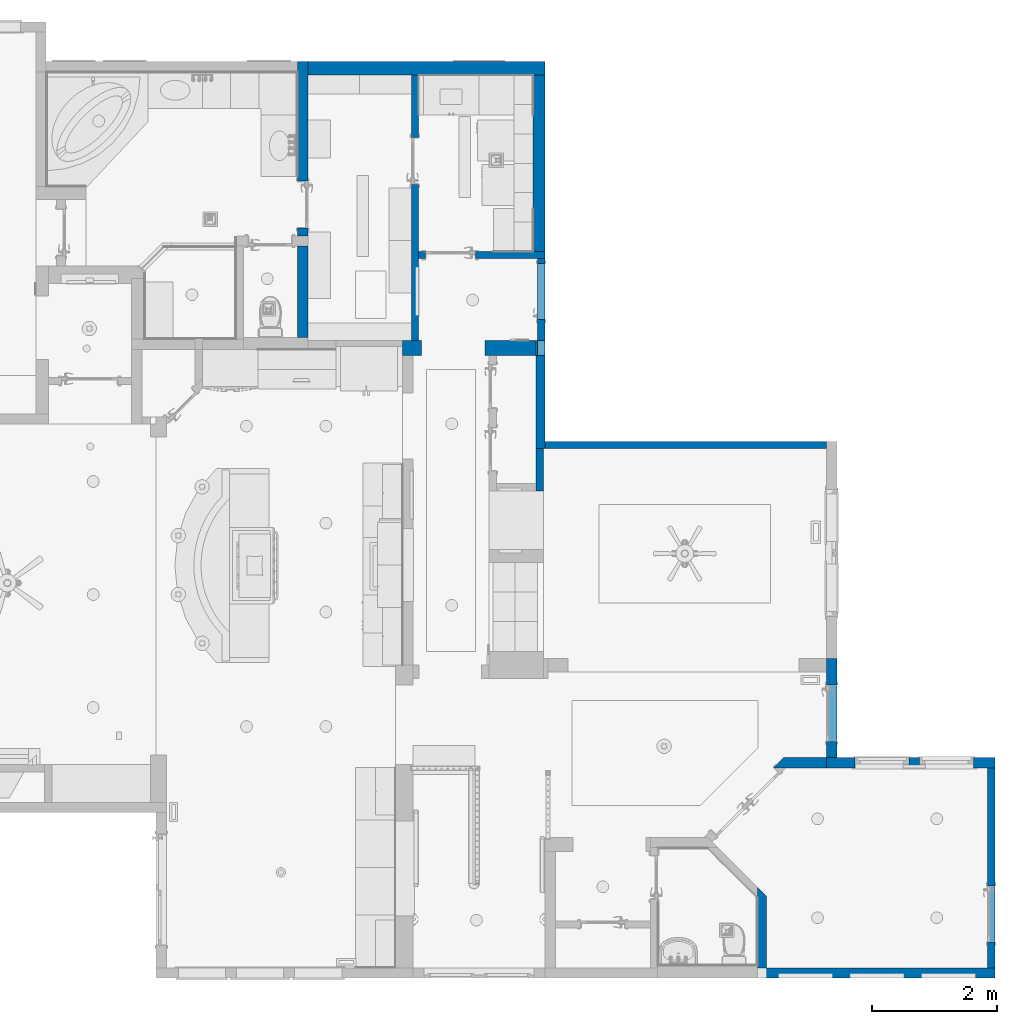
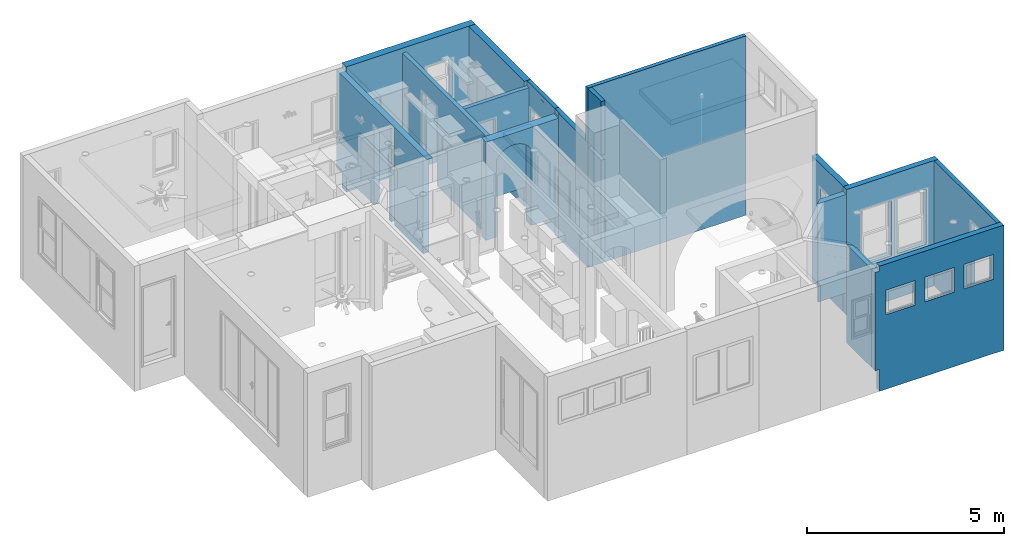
# One storey, part 9 of 77: 16 walls.
"""IFC2X3 building model written with IfcOpenShell, lengths in inches."""

import ifcopenshell
import ifcopenshell.guid

model = None  # the IFC model being written
_history = None  # IfcOwnerHistory: only IFC2X3 demands one
_inside = {}  # id of a spatial element -> (the spatial element, [elements in it])
_under = {}  # id of a project, library or spatial element -> (it, [spatial elements below it])
_declared = {}  # id of a project -> (the project, [libraries it declares])
_typed = {}  # id of a type object -> (the type object, [elements of that type])
_made_of = {}  # id of a material, layer set ... -> (it, [elements and type objects made of it])


def new_model(schema):
    """Start an empty IFC model of exactly this schema.

    Asked for "IFC4X3", IfcOpenShell would pick the latest addendum, in which some entities
    have other attributes; the version numbers below select the first issue.
    IFC2X3 requires an IfcOwnerHistory on every rooted entity: one is made here for all.
    """
    global model, _history
    if schema == "IFC4X3":
        model = ifcopenshell.file(schema_version=(4, 3, 0, 0))
    else:
        model = ifcopenshell.file(schema=schema)
    _inside.clear()
    _under.clear()
    _declared.clear()
    _typed.clear()
    _made_of.clear()
    _history = None
    if model.schema == "IFC2X3":
        org = make("IfcOrganization", Name="unknown")
        user = make(
            "IfcPersonAndOrganization",
            ThePerson=make("IfcPerson", FamilyName="unknown"),
            TheOrganization=org,
        )
        app = make(
            "IfcApplication",
            ApplicationDeveloper=org,
            Version="unknown",
            ApplicationFullName="unknown",
            ApplicationIdentifier="unknown",
        )
        _history = make(
            "IfcOwnerHistory",
            OwningUser=user,
            OwningApplication=app,
            ChangeAction="ADDED",
            CreationDate=0,
        )
    return model


def make(cls, **values):
    """One entity of the class cls with the attributes given. An attribute that is None is left unset."""
    return model.create_entity(
        cls, **{name: value for name, value in values.items() if value is not None}
    )


def entity(cls, *values):
    """Any entity or typed value of the class cls, its attributes in the order of the schema. None: left unset."""
    e = model.create_entity(cls)
    for i, value in enumerate(values):
        if value is not None:
            e[i] = value
    return e


def rooted(cls, **values):
    """An entity with a GlobalId (a new one), such as an element, a storey or a relation."""
    return make(cls, GlobalId=ifcopenshell.guid.new(), OwnerHistory=_history, **values)


def si_unit(unit_type, name, prefix=None):
    """IfcSIUnit, for example si_unit("LENGTHUNIT", "METRE", prefix="MILLI")."""
    return make("IfcSIUnit", UnitType=unit_type, Prefix=prefix, Name=name)


def converted_unit(unit_type, name, factor, base, dimensions=None, offset=None):
    """IfcConversionBasedUnit, such as the inch: factor (a typed value) times the base unit."""
    return make(
        "IfcConversionBasedUnit"
        if offset is None
        else "IfcConversionBasedUnitWithOffset",
        ConversionOffset=offset,
        Dimensions=None
        if dimensions is None
        else entity("IfcDimensionalExponents", *dimensions),
        UnitType=unit_type,
        Name=name,
        ConversionFactor=make(
            "IfcMeasureWithUnit", ValueComponent=factor, UnitComponent=base
        ),
    )


def derived_unit(unit_type, elements):
    """IfcDerivedUnit: a product of units, each with its exponent."""
    return make(
        "IfcDerivedUnit",
        Elements=[
            make("IfcDerivedUnitElement", Unit=unit, Exponent=power)
            for unit, power in elements
        ],
        UnitType=unit_type,
    )


def money_unit(currency):
    """IfcMonetaryUnit."""
    return make("IfcMonetaryUnit", Currency=currency)


def assignment(units):
    """IfcUnitAssignment: the units of a project."""
    return None if units is None else make("IfcUnitAssignment", Units=units)


def point(xyz):
    """IfcCartesianPoint."""
    return None if xyz is None else make("IfcCartesianPoint", Coordinates=xyz)


def direction(xyz):
    """IfcDirection."""
    return None if xyz is None else make("IfcDirection", DirectionRatios=xyz)


def frame(location, z_axis=None, x_axis=None):
    """IfcAxis2Placement3D, a coordinate frame: its origin and axes. An axis left out is left unset."""
    return make(
        "IfcAxis2Placement3D",
        Location=point(location),
        Axis=direction(z_axis),
        RefDirection=direction(x_axis),
    )


def origin_with_axes():
    """The frame at (0, 0, 0) with the z axis (0, 0, 1) and the x axis (1, 0, 0) written out."""
    return frame((0.0, 0.0, 0.0), z_axis=(0.0, 0.0, 1.0), x_axis=(1.0, 0.0, 0.0))


def place(relative_to, where):
    """IfcLocalPlacement: puts the frame where relative to a parent placement (None: the world)."""
    return make(
        "IfcLocalPlacement", PlacementRelTo=relative_to, RelativePlacement=where
    )


def context(
    kind, dimensions, precision=None, world=None, true_north=None, identifier=None
):
    """IfcGeometricRepresentationContext, for example the 3D "Model" context."""
    return make(
        "IfcGeometricRepresentationContext",
        ContextIdentifier=identifier,
        ContextType=kind,
        CoordinateSpaceDimension=dimensions,
        Precision=precision,
        WorldCoordinateSystem=world,
        TrueNorth=true_north,
    )


def subcontext(parent, identifier, kind, view, scale=None):
    """IfcGeometricRepresentationSubContext, for example "Body" below "Model"."""
    return make(
        "IfcGeometricRepresentationSubContext",
        ContextIdentifier=identifier,
        ContextType=kind,
        ParentContext=parent,
        TargetScale=scale,
        TargetView=view,
    )


def project(units=None, contexts=None):
    """IfcProject with its units and contexts."""
    return rooted(
        "IfcProject",
        Name="project",
        RepresentationContexts=contexts,
        UnitsInContext=assignment(units),
    )


def spatial(cls, under=None, at=None, **own):
    """A site, building, storey or space (cls), placed at a placement, below another one or the project."""
    s = rooted(cls, ObjectPlacement=at, **own)
    if under is not None:
        _under.setdefault(under.id(), (under, []))[1].append(s)
    return s


def faces_of(points, faces, orient=None, outer=None):
    """IfcFace entities. A face is a list of loops; a loop is a list of indices into points, from 0.

    orient and outer hold one flag for each loop. By default every Orientation is true, the
    first loop of a face is its IfcFaceOuterBound and the others are IfcFaceBound.
    """
    made = []
    for i, loops in enumerate(faces):
        bounds = []
        for j, loop in enumerate(loops):
            is_outer = j == 0 if outer is None else outer[i][j]
            bounds.append(
                make(
                    "IfcFaceOuterBound" if is_outer else "IfcFaceBound",
                    Bound=make("IfcPolyLoop", Polygon=[points[k] for k in loop]),
                    Orientation=True if orient is None else orient[i][j],
                )
            )
        made.append(make("IfcFace", Bounds=bounds))
    return made


def faceted_brep(points, faces, orient=None, outer=None, voids=None):
    """IfcFacetedBrep: a solid bounded by flat faces; with voids (closed shells), ...WithVoids."""
    shared = [point(p) for p in points]
    hull = make("IfcClosedShell", CfsFaces=faces_of(shared, faces, orient, outer))
    if voids is None:
        return make("IfcFacetedBrep", Outer=hull)
    return make(
        "IfcFacetedBrepWithVoids",
        Outer=hull,
        Voids=[
            make(cls, CfsFaces=faces_of(shared, fs, o, b)) for cls, fs, o, b in voids
        ],
    )


def shape(context_of_items, identifier, shape_type, items):
    """IfcShapeRepresentation: the items that make up one representation, for example the "Body"."""
    return make(
        "IfcShapeRepresentation",
        ContextOfItems=context_of_items,
        RepresentationIdentifier=identifier,
        RepresentationType=shape_type,
        Items=items,
    )


def material(Name=None, Category=None):
    """IfcMaterial."""
    return make("IfcMaterial", Name=Name, Category=Category)


def made_of(thing, what):
    """Note that an element or type object is made of a material, layer set ...; save() writes the relation."""
    if what is not None:
        _made_of.setdefault(what.id(), (what, []))[1].append(thing)
    return thing


def type_object(cls, material=None, **own):
    """A type object (cls), such as IfcWallType, which elements share."""
    return made_of(rooted(cls, **own), material)


def element(
    cls,
    number,
    at=None,
    inside=None,
    cuts=None,
    type_object=None,
    material=None,
    context=None,
    identifier="Body",
    shape_type=None,
    held_by="IfcProductDefinitionShape",
    body=None,
    shapes=None,
    **own,
):
    """One element of the class cls, such as IfcWall. Its Tag is "e" and its number.

    at: its placement. inside: the storey or other place that contains it. cuts: it is an
    opening in that element (IfcRelVoidsElement). A single representation is given by context,
    identifier, shape_type and body (its items); several are given by shapes. held_by: the class
    of the entity that holds the representations. save() writes the other relations.
    """
    e = rooted(cls, Tag="e%d" % number, ObjectPlacement=at, **own)
    if body is not None:
        shapes = [shape(context, identifier, shape_type, body)]
    if shapes is not None:
        e.Representation = make(held_by, Representations=shapes)
    if inside is not None:
        _inside.setdefault(inside.id(), (inside, []))[1].append(e)
    if cuts is not None:
        rooted(
            "IfcRelVoidsElement", RelatingBuildingElement=cuts, RelatedOpeningElement=e
        )
    if type_object is not None:
        _typed.setdefault(type_object.id(), (type_object, []))[1].append(e)
    return made_of(e, material)


def aggregate(whole, parts):
    """IfcRelAggregates: a whole, such as a stair, and the parts it consists of."""
    return rooted("IfcRelAggregates", RelatingObject=whole, RelatedObjects=parts)


def save(model, path):
    """Write the relations noted so far, then the file.

    IfcRelAggregates (storeys below a building ...), IfcRelContainedInSpatialStructure (elements
    in a storey), IfcRelDefinesByType, IfcRelAssociatesMaterial and IfcRelDeclares: one each for
    every whole, place, type object, material and project.
    """
    for whole, parts in _under.values():
        aggregate(whole, parts)
    for where, things in _inside.values():
        rooted(
            "IfcRelContainedInSpatialStructure",
            RelatedElements=things,
            RelatingStructure=where,
        )
    for kind, things in _typed.values():
        rooted("IfcRelDefinesByType", RelatedObjects=things, RelatingType=kind)
    for what, things in _made_of.values():
        rooted("IfcRelAssociatesMaterial", RelatedObjects=things, RelatingMaterial=what)
    for by, libraries in _declared.values():
        rooted("IfcRelDeclares", RelatingContext=by, RelatedDefinitions=libraries)
    model.write(path)


model = new_model("IFC2X3")

# Units and contexts
model_context = context("Model", 3, precision=0.000393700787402, world=origin_with_axes(), true_north=direction((0.0, 1.0)))
body_context = subcontext(model_context, "Body", "Model", "MODEL_VIEW")
ifc_project = project(units=[converted_unit("LENGTHUNIT", "INCH", entity("IfcPositiveLengthMeasure", 0.0254), si_unit("LENGTHUNIT", "METRE"), dimensions=[1, 0, 0, 0, 0, 0, 0]), converted_unit("AREAUNIT", "SQUARE_FOOT", entity("IfcPositiveLengthMeasure", 0.09290304), si_unit("AREAUNIT", "SQUARE_METRE"), dimensions=[2, 0, 0, 0, 0, 0, 0]), si_unit("PLANEANGLEUNIT", "RADIAN"), si_unit("SOLIDANGLEUNIT", "STERADIAN"), money_unit("USD"), converted_unit("TIMEUNIT", "Year", entity("IfcTimeMeasure", 31556926.0), si_unit("TIMEUNIT", "SECOND"), dimensions=[0, 0, 1, 0, 0, 0, 0]), si_unit("MASSUNIT", "GRAM", prefix="KILO"), si_unit("THERMODYNAMICTEMPERATUREUNIT", "DEGREE_CELSIUS"), si_unit("LUMINOUSINTENSITYUNIT", "LUMEN"), si_unit("ENERGYUNIT", "JOULE", prefix="MEGA"), derived_unit("THERMALCONDUCTANCEUNIT", [(si_unit("POWERUNIT", "WATT"), 1), (si_unit("LENGTHUNIT", "METRE"), -1), (si_unit("THERMODYNAMICTEMPERATUREUNIT", "KELVIN"), -1)]), derived_unit("SPECIFICHEATCAPACITYUNIT", [(si_unit("ENERGYUNIT", "JOULE"), 1), (si_unit("MASSUNIT", "GRAM", prefix="KILO"), -1), (si_unit("THERMODYNAMICTEMPERATUREUNIT", "KELVIN"), -1)]), derived_unit("MASSDENSITYUNIT", [(si_unit("MASSUNIT", "GRAM", prefix="KILO"), 1), (si_unit("VOLUMEUNIT", "CUBIC_METRE"), -1)])], contexts=[model_context])

# Site, building, storey
site_placement = place(None, origin_with_axes())
site = spatial("IfcSite", under=ifc_project, at=site_placement, Name="Site", CompositionType="ELEMENT")
building_placement = place(site_placement, origin_with_axes())
building = spatial("IfcBuilding", under=site, at=building_placement, Name="Building", CompositionType="ELEMENT")
storey_placement = place(building_placement, frame((0.0, 0.0, 127.952755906), z_axis=(0.0, 0.0, 1.0), x_axis=(1.0, 0.0, 0.0)))
storey = spatial("IfcBuildingStorey", under=building, at=storey_placement, Name="Second Floor", CompositionType="ELEMENT", Elevation=127.953)

# Walls
ifc_material = material(Name="Generic - Structural")
wall_type_1 = type_object("IfcWallType", Name="Generic - Structural 115", PredefinedType="NOTDEFINED")
wall_1_placement = place(storey_placement, frame((726.999746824, 470.00831258, 0.0), z_axis=(0.0, 0.0, 1.0), x_axis=(-1.0, 0.0, 0.0)))
element("IfcWall", 1, at=wall_1_placement, inside=storey, type_object=wall_type_1, material=ifc_material, Name="SW - 131", context=body_context, shape_type="Brep", body=[
    faceted_brep([(75.198381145, 0.0, 96.4566929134), (75.198381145, 0.0, 0.0157480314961), (79.5192100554, 0.0, 0.0157480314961), (79.5192100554, 0.0, 120.078740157), (0.0, 0.0, 120.078740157), (0.0, 0.0, 0.0), (7.55204539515, 0.0, 0.0), (7.55204539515, 0.0, 0.0157480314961), (43.7023181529, 0.0, 0.0157480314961), (43.7023181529, 0.0, 96.4566929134), (75.198381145, 4.52755905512, 96.4566929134), (75.198381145, 4.52755905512, 0.0157480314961), (79.5195814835, 4.52755905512, 0.0157480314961), (79.5195814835, 4.52755905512, 120.078740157), (0.0, 4.52755905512, 120.078740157), (0.0, 4.52755905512, 0.0), (4.55204623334, 4.52755905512, 0.0), (4.55204623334, 0.100688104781, 0.0), (7.55204539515, 0.100688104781, 0.0), (7.55204539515, 0.100688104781, 0.0157480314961), (43.7023181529, 4.52755905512, 0.0157480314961), (4.55204623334, 0.100688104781, 0.0157480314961), (4.55204623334, 4.52755905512, 0.0157480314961), (7.55204539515, 4.52755905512, 0.0157480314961), (43.7023181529, 4.52755905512, 96.4566929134)], [[[0, 1, 2, 3, 4, 5, 6, 7, 8, 9]], [[1, 0, 10, 11]], [[1, 11, 12, 2]], [[2, 12, 13, 3]], [[3, 13, 14, 4]], [[5, 4, 14, 15]], [[5, 15, 16, 17, 18, 6]], [[7, 6, 18, 19]], [[20, 8, 7, 19, 21, 22, 23]], [[9, 8, 20, 24]], [[0, 9, 24, 10]], [[24, 20, 23, 22, 16, 15, 14, 13, 12, 11, 10]], [[22, 21, 17, 16]], [[18, 17, 21, 19]]]),
])
wall_2_placement = place(storey_placement, frame((721.497022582, 345.971990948, -26.968503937), z_axis=(0.0, 0.0, 1.0), x_axis=(0.999999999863, -1.65757655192e-05, 0.0)))
element("IfcWall", 2, at=wall_2_placement, inside=storey, type_object=wall_type_1, material=ifc_material, Name="W-12", context=body_context, shape_type="Brep", body=[
    faceted_brep([(182.726743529, 4.52755905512, 219.094488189), (182.726743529, 4.52755905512, 0.0), (5.50010650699, 4.52755905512, 0.0), (5.50010650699, 4.52755905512, 152.952755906), (0.000106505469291, 4.52755905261, 152.952755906), (0.0, 4.52755905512, 219.094488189), (182.726637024, 0.0, 0.0), (182.726637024, 0.0, 219.094488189), (5.50000000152, 0.0, 0.0), (5.50000000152, 0.0, 152.952755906), (0.0, 0.0, 152.952755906), (0.0, 0.0, 219.094488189)], [[[0, 1, 2, 3, 4, 5]], [[6, 1, 0, 7]], [[2, 1, 6, 8]], [[2, 8, 9, 3]], [[3, 9, 10, 4]], [[10, 11, 5, 4]], [[7, 0, 5, 11]], [[7, 11, 10, 9, 8, 6]]]),
])
wall_3_placement = place(storey_placement, frame((722.472187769, 470.008312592, -26.968503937), z_axis=(0.0, 0.0, 1.0), x_axis=(-2.83681185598e-09, -1.0, 0.0)))
element("IfcWall", 3, at=wall_3_placement, inside=storey, type_object=wall_type_1, material=ifc_material, Name="SW - 130", context=body_context, shape_type="Brep", body=[
    faceted_brep([(0.0, 0.0, 0.0), (56.1042624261, 1.59157236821e-07, 0.0), (56.1042624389, 1.59157236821e-07, 26.968503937), (56.1042624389, 1.59157236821e-07, 147.047244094), (56.1042624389, 1.59157236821e-07, 147.062992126), (1.28438292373e-08, 0.0, 147.062992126), (1.28438292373e-08, 0.0, 147.047244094), (4.52755906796, 1.28438991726e-08, 147.047244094), (4.52755906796, 1.28438991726e-08, 26.968503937), (1.28438292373e-08, 0.0, 26.968503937), (42.9080080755, 1.21721985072e-07, 26.968503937), (7.47493720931, 2.12050849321e-08, 26.968503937), (7.47493720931, 2.12050849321e-08, 123.42519685), (42.9080080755, 1.21721985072e-07, 123.42519685), (-1.28438292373e-08, 4.52755905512, 0.0), (56.1042624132, 4.52755921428, 0.0), (56.1042624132, 4.52755921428, 152.952755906), (56.104262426, 0.0174555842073, 152.952755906), (56.1042624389, 0.0174555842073, 147.062992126), (1.27943150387e-08, 0.0174554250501, 147.062992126), (1.27943150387e-08, 0.0174554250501, 152.952755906), (-1.28438292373e-08, 4.52755905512, 152.952755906), (0.0, 4.52755905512, 147.047244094), (4.52755905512, 4.52755906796, 147.047244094), (4.52755905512, 4.52755906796, 26.968503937), (0.0, 4.52755905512, 26.968503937), (42.9080080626, 4.52755917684, 26.968503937), (7.47493719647, 4.52755907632, 26.968503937), (7.47493719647, 4.52755907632, 123.42519685), (42.9080080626, 4.52755917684, 123.42519685)], [[[0, 1, 2, 3, 4, 5, 6, 7, 8, 9], [10, 11, 12, 13]], [[0, 14, 15, 1]], [[1, 15, 16, 17, 18, 4, 3, 2]], [[19, 5, 4, 18]], [[20, 21, 22, 6, 5, 19]], [[7, 6, 22, 23]], [[7, 23, 24, 8]], [[8, 24, 25, 9]], [[0, 9, 25, 14]], [[26, 27, 11, 10]], [[27, 28, 12, 11]], [[28, 29, 13, 12]], [[29, 26, 10, 13]], [[21, 16, 15, 14, 25, 24, 23, 22], [26, 29, 28, 27]], [[20, 17, 16, 21]], [[17, 20, 19, 18]]]),
])
wall_4_placement = place(storey_placement, frame((726.025904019, 319.406813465, 0.0), z_axis=(0.0, 0.0, 1.0), x_axis=(5.26893967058e-05, 0.999999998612, 0.0)))
element("IfcWall", 4, at=wall_4_placement, inside=storey, type_object=wall_type_1, material=ifc_material, Name="SW - 106", context=body_context, shape_type="Brep", body=[
    faceted_brep([(26.5649389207, 4.52755905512, 0.0), (26.5648675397, 4.52755905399, 120.094488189), (26.5649388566, 0.0, 120.094488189), (26.5651024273, 0.0, 0.0), (0.0, 4.52755905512, 94.094488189), (-0.000191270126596, 4.52755904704, 120.094488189), (26.5005356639, 4.52755905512, 0.0), (26.500572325, 4.52755905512, 0.0157480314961), (-0.000190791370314, 4.52755905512, 0.0157480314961), (0.0, 0.0, 120.094488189), (0.0, 0.0, 94.094488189), (0.0, 0.0, 0.0157480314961), (26.5008108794, 0.0, 0.0157480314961), (26.500775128, 0.0, 0.0)], [[[0, 1, 2, 3]], [[4, 5, 1, 0, 6, 7, 8]], [[5, 9, 2, 1]], [[3, 2, 9, 10, 11, 12, 13]], [[0, 3, 13, 6]], [[10, 9, 5, 4, 8, 11]], [[7, 6, 13, 12]], [[8, 7, 12, 11]]]),
    faceted_brep([(0.0, 4.52755905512, 191.929133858), (0.000357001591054, 0.0362606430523, 191.929133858), (0.0, 0.0, 191.929133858), (26.5651024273, 0.0, 191.929133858), (26.5649389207, 4.52755905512, 191.929133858), (-0.000191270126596, 4.52755904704, 126.0), (-1.53185726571e-06, 0.0362606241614, 191.401116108), (-1.53185726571e-06, 0.0362606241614, 186.023622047), (0.0, 0.0, 186.023622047), (0.0, 0.0, 126.0), (26.5649388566, 0.0, 126.0), (26.5648675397, 4.52755905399, 126.0)], [[[0, 1, 2, 3, 4]], [[5, 6, 1, 0]], [[7, 8, 2, 1]], [[3, 2, 8, 9, 10]], [[4, 3, 10, 11]], [[0, 4, 11, 5]], [[8, 7, 6, 5, 9]], [[7, 1, 6]], [[9, 5, 11, 10]]]),
])
wall_5_placement = place(storey_placement, frame((647.475934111, 413.903763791, 0.0), z_axis=(0.0, 0.0, 1.0), x_axis=(8.20371615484e-05, 0.999999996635, 0.0)))
element("IfcWall", 5, at=wall_5_placement, inside=storey, type_object=wall_type_1, material=ifc_material, Name="SW - 132", context=body_context, shape_type="Brep", body=[
    faceted_brep([(98.4290810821, 1.38471911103e-08, 0.0157480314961), (98.4290810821, 0.0, 96.4566929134), (127.956640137, 0.0, 96.4566929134), (127.956640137, 1.8000369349e-08, 0.0157480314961), (167.003865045, 2.34923891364e-08, 0.0157480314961), (167.003850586, 0.0, 0.0), (167.110662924, 0.0, 0.0), (167.110662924, 0.0, 120.094488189), (0.0, 0.0, 120.094488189), (0.000286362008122, 2.34923891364e-08, 120.078740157), (0.00028636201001, 0.0, 0.0157480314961), (98.4290810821, 4.52755905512, 0.0157480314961), (98.4290810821, 4.52755905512, 96.4566929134), (127.956640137, 4.52755905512, 96.4566929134), (127.956640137, 4.52755905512, 0.0157480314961), (167.003493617, 4.52755905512, 0.0157480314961), (167.003478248, 4.52755905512, 0.0), (167.110291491, 4.52755905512, 0.0), (167.110291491, 4.52755905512, 120.094488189), (0.0, 4.52755905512, 120.094488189), (-8.50660842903e-05, 4.52755904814, 120.078740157), (-8.50660848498e-05, 4.52755905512, 0.0157480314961)], [[[0, 1, 2, 3, 4, 5, 6, 7, 8, 9, 10]], [[1, 0, 11, 12]], [[2, 1, 12, 13]], [[3, 2, 13, 14]], [[3, 14, 15, 4]], [[5, 4, 15, 16]], [[5, 16, 17, 6]], [[7, 6, 17, 18]], [[19, 8, 7, 18]], [[9, 8, 19, 20, 21, 10]], [[11, 0, 10, 21]], [[12, 11, 21, 20, 19, 18, 17, 16, 15, 14, 13]]]),
])
wall_6_placement = place(storey_placement, frame((1005.59027146, 145.178134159, -26.968503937), z_axis=(0.0, 0.0, 1.0), x_axis=(0.0, -1.0, 0.0)))
element("IfcWall", 6, at=wall_6_placement, inside=storey, type_object=wall_type_1, material=ifc_material, Name="SW - 075", context=body_context, shape_type="Brep", body=[
    faceted_brep([(125.77096185, 0.0, 0.0), (125.77096185, 0.0, 152.952755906), (0.0, 0.0, 152.952755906), (0.0, 0.0, 0.0), (109.629733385, 0.0, 26.968503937), (74.1966625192, 0.0, 26.968503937), (74.1966625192, 0.0, 123.42519685), (109.629733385, 0.0, 123.42519685), (125.77096185, 4.52755905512, 0.0), (125.77096185, 4.52755905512, 152.952755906), (-0.000934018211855, 4.52755905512, 152.952755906), (-0.000934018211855, 4.52755905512, 0.0), (109.629733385, 4.52755905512, 26.968503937), (74.1966625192, 4.52755905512, 26.968503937), (74.1966625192, 4.52755905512, 123.42519685), (109.629733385, 4.52755905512, 123.42519685)], [[[0, 1, 2, 3], [4, 5, 6, 7]], [[8, 9, 1, 0]], [[1, 9, 10, 2]], [[2, 10, 11, 3]], [[8, 0, 3, 11]], [[12, 13, 5, 4]], [[13, 14, 6, 5]], [[14, 15, 7, 6]], [[15, 12, 4, 7]], [[9, 8, 11, 10], [12, 15, 14, 13]]]),
])
wall_type_2 = type_object("IfcWallType", Name="Generic - Structural 140", PredefinedType="NOTDEFINED")
wall_7_placement = place(storey_placement, frame((866.408419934, 19.4071723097, 0.0), z_axis=(0.0, 0.0, 1.0), x_axis=(0.0, 1.0, 0.0)))
element("IfcWall", 7, at=wall_7_placement, inside=storey, type_object=wall_type_2, material=ifc_material, Name="SW - 077", context=body_context, shape_type="Brep", body=[
    faceted_brep([(0.0, 0.0, 0.0), (0.00053203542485, 0.0, 0.0), (0.000456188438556, 0.0, 0.0157480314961), (45.0906224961, 0.0, 0.0157480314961), (45.0906224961, 0.0, 120.094488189), (0.0, 0.0, 120.094488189), (0.0, 5.5, 0.0), (0.000530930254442, 5.5, 0.0), (0.000456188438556, 5.5, 0.0157480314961), (50.600824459, 5.5, 0.0157480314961), (50.600824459, 5.5, 120.094488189), (0.0, 5.5, 120.094488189)], [[[0, 1, 2, 3, 4, 5]], [[6, 7, 1, 0]], [[8, 2, 1, 7]], [[8, 9, 3, 2]], [[4, 3, 9, 10]], [[4, 10, 11, 5]], [[11, 6, 0, 5]], [[9, 8, 7, 6, 11, 10]]]),
])
wall_8_placement = place(storey_placement, frame((721.497022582, 345.971990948, -26.968503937), z_axis=(0.0, 0.0, 1.0), x_axis=(4.00995822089e-05, 0.999999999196, 0.0)))
element("IfcWall", 8, at=wall_8_placement, inside=storey, type_object=wall_type_2, material=ifc_material, Name="SW - 106", context=body_context, shape_type="Brep", body=[
    faceted_brep([(67.9320592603, -8.8437393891e-09, 147.047244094), (67.9320598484, -8.8202411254e-09, 147.062992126), (67.9320989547, -0.989896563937, 147.062992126), (67.932279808, -0.989896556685, 152.952755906), (67.932279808, -5.5, 152.952755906), (67.932279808, -5.500000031, 147.047244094), (58.4832403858, -0.000378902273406, 152.952755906), (58.4832403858, -0.000378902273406, 147.062992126), (58.483240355, 0.0, 147.047244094), (58.483240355, 0.0, 26.9842519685), (58.4671981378, 0.0, 26.9842519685), (58.4671981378, 0.0, 0.0157480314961), (67.9322796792, 0.0, 0.0157480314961), (67.932279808, 0.0, 0.0), (0.0, 0.0, 0.0), (0.0, 0.0, 152.952755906), (58.4832800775, -0.990275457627, 147.062992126), (58.4832800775, -0.990275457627, 152.952755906), (0.000129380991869, -5.5, 152.952755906), (0.000129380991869, -5.5, 0.0), (67.932279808, -5.5, 0.0), (67.932279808, -5.500000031, 26.968503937), (58.4834609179, -5.50037892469, 26.968503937), (58.4834609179, -5.50037892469, 147.047244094), (58.4832783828, -0.948332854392, 26.968503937), (58.4832783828, -0.948332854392, 26.9842519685), (58.4672361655, -0.948333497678, 26.9842519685), (58.4672361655, -0.948333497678, 0.0157480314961), (67.9320972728, -0.947953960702, 0.0157480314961), (67.9320972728, -0.947953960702, 26.968503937)], [[[0, 1, 2, 3, 4, 5]], [[6, 7, 1, 0, 8, 9, 10, 11, 12, 13, 14, 15]], [[16, 2, 1, 7]], [[16, 17, 3, 2]], [[3, 17, 6, 15, 18, 4]], [[4, 18, 19, 20, 21, 22, 23, 5]], [[8, 0, 5, 23]], [[7, 6, 17, 16]], [[22, 24, 25, 9, 8, 23]], [[26, 10, 9, 25]], [[26, 27, 11, 10]], [[11, 27, 28, 12]], [[20, 13, 12, 28, 29, 21]], [[14, 13, 20, 19]], [[18, 15, 14, 19]], [[22, 21, 29, 24]], [[26, 25, 24, 29, 28, 27]]]),
])
wall_type_3 = type_object("IfcWallType", Name="Generic - Structural 215", PredefinedType="NOTDEFINED")
wall_9_placement = place(storey_placement, frame((577.98831937, 581.014426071, -26.968503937), z_axis=(0.0, 0.0, 1.0), x_axis=(1.0, 1.18114733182e-09, 0.0)))
element("IfcWall", 9, at=wall_9_placement, inside=storey, type_object=wall_type_3, material=ifc_material, Name="SW - 129", context=body_context, shape_type="Brep", body=[
    faceted_brep([(149.011427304, -1.76004442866e-07, 152.952755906), (0.0, 0.0, 152.952755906), (0.0, 0.0, 152.559055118), (0.0013301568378, 0.0, 152.559055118), (0.0013301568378, 0.0, 146.653543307), (0.0, 0.0, 146.653543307), (0.0, 0.0, 26.968503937), (0.0, 0.0, 0.0), (149.011427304, -1.76004442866e-07, 0.0), (92.9319193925, -1.09766264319e-07, 74.4094488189), (92.9319193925, -1.09766264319e-07, 119.881889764), (122.262628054, -1.44410118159e-07, 119.881889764), (122.262628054, -1.44410118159e-07, 74.4094488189), (149.011427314, 8.46456675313, 152.952755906), (9.99788178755e-09, 8.46456692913, 152.952755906), (2.23555207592e-09, 1.89274623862, 146.653543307), (2.23555207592e-09, 1.89274623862, 152.559055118), (-6.49198077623e-05, 8.46456692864, 146.653543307), (-6.49198077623e-05, 8.46456692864, 26.968503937), (9.99788178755e-09, 8.46456692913, 0.0), (0.00133018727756, 1.89274623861, 152.559055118), (0.00133018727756, 1.89274623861, 146.653543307), (149.011427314, 8.46456675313, 0.0), (92.9319194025, 8.46456681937, 74.4094488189), (92.9319194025, 8.46456681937, 119.881889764), (122.262628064, 8.46456678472, 119.881889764), (122.262628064, 8.46456678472, 74.4094488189)], [[[0, 1, 2, 3, 4, 5, 6, 7, 8], [9, 10, 11, 12]], [[0, 13, 14, 1]], [[7, 6, 5, 15, 16, 2, 1, 14, 17, 18, 19]], [[3, 2, 16, 20]], [[4, 3, 20, 21]], [[5, 4, 21, 15]], [[22, 8, 7, 19]], [[0, 8, 22, 13]], [[23, 24, 10, 9]], [[24, 25, 11, 10]], [[25, 26, 12, 11]], [[26, 23, 9, 12]], [[17, 14, 13, 22, 19, 18], [23, 26, 25, 24]], [[16, 15, 21, 20]]]),
])
wall_type_4 = type_object("IfcWallType", Name="Generic Wall 6.5\" 165", PredefinedType="NOTDEFINED")
wall_10_placement = place(storey_placement, frame((904.218373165, 214.136779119, -26.968503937), z_axis=(0.0, 0.0, 1.0), x_axis=(0.000216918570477, -0.999999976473, 0.0)))
element("IfcWall", 10, at=wall_10_placement, inside=storey, type_object=wall_type_4, material=ifc_material, Name="SW - 093", context=body_context, shape_type="Brep", body=[
    faceted_brep([(62.4795561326, 0.0, 0.0), (62.4795561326, 0.0, 152.952755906), (0.0, 0.0, 152.952755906), (0.0, 0.0, 0.0), (16.8024045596, 0.0, 26.968503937), (16.8024045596, 0.0, 123.42519685), (52.2354754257, 0.0, 123.42519685), (52.2354754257, 0.0, 26.968503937), (62.4796251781, 6.5, 0.0), (62.4796251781, 6.5, 152.952755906), (0.000835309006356, 6.5, 152.952755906), (0.000835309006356, 6.5, 0.0), (16.8024045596, 6.5, 26.968503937), (16.8024045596, 6.5, 123.42519685), (52.2354754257, 6.5, 123.42519685), (52.2354754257, 6.5, 26.968503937)], [[[0, 1, 2, 3], [4, 5, 6, 7]], [[0, 8, 9, 1]], [[1, 9, 10, 2]], [[11, 3, 2, 10]], [[8, 0, 3, 11]], [[12, 13, 5, 4]], [[13, 14, 6, 5]], [[14, 15, 7, 6]], [[15, 12, 4, 7]], [[9, 8, 11, 10], [12, 15, 14, 13]]]),
])
wall_11_placement = place(storey_placement, frame((904.232603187, 145.157224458, -26.968503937), z_axis=(0.0, 0.0, 1.0), x_axis=(0.999999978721, 0.000206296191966, 0.0)))
element("IfcWall", 11, at=wall_11_placement, inside=storey, type_object=wall_type_4, material=ifc_material, Name="SW - 080", context=body_context, shape_type="Brep", body=[
    faceted_brep([(0.000663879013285, 6.5, 26.968503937), (0.000663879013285, 6.5, 147.047244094), (0.0, 6.5, 147.047244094), (0.0, 6.5, 152.952755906), (105.886570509, 6.5, 152.952755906), (105.886570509, 6.5, 0.0), (0.0, 6.5, 0.0), (0.0, 6.5, 26.968503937), (92.5029968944, 6.5, 54.1338582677), (92.5029968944, 6.5, 121.653543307), (58.4478787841, 6.5, 121.653543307), (58.4478787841, 6.5, 54.1338582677), (17.8916929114, 6.5, 54.1338582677), (51.9468110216, 6.5, 54.1338582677), (51.9468110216, 6.5, 121.653543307), (17.8916929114, 6.5, 121.653543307), (0.0, 0.0, 147.047244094), (0.0, 0.0, 26.968503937), (0.0, 0.0, 152.952755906), (105.885229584, 0.0, 152.952755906), (105.885229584, 0.0, 0.0), (0.0, 0.0, 0.0), (92.5029968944, 0.0, 121.653543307), (92.5029968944, 0.0, 54.1338582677), (58.4478787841, 0.0, 121.653543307), (58.4478787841, 0.0, 54.1338582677), (17.8916929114, 0.0, 54.1338582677), (51.9468110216, 0.0, 54.1338582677), (51.9468110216, 0.0, 121.653543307), (17.8916929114, 0.0, 121.653543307)], [[[0, 1, 2, 3, 4, 5, 6, 7], [8, 9, 10, 11], [12, 13, 14, 15]], [[16, 1, 0, 17]], [[16, 2, 1]], [[3, 2, 16, 18]], [[3, 18, 19, 4]], [[19, 20, 5, 4]], [[21, 6, 5, 20]], [[21, 17, 7, 6]], [[7, 17, 0]], [[22, 9, 8, 23]], [[24, 10, 9, 22]], [[25, 11, 10, 24]], [[23, 8, 11, 25]], [[26, 27, 13, 12]], [[27, 28, 14, 13]], [[28, 29, 15, 14]], [[29, 26, 12, 15]], [[20, 19, 18, 16, 17, 21], [24, 22, 23, 25], [26, 29, 28, 27]]]),
])
wall_12_placement = place(storey_placement, frame((577.989643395, 408.408081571, 0.0), z_axis=(0.0, 0.0, 1.0), x_axis=(-7.67077703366e-06, 0.999999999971, 0.0)))
element("IfcWall", 12, at=wall_12_placement, inside=storey, type_object=wall_type_4, material=ifc_material, Name="SW - 134", context=body_context, shape_type="Brep", body=[
    faceted_brep([(76.355972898, 0.0, 0.0157480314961), (76.355972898, 0.0, 96.4566929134), (105.871703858, 0.0, 96.4566929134), (105.871703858, 0.0, 0.0157480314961), (172.499546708, 0.0, 0.0157480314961), (172.499518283, 0.0, 0.0), (181.073846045, 0.0, 0.0), (181.073846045, 0.0, 119.68503937), (2.47440982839e-07, 0.0, 119.68503937), (1.0612962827e-08, 0.0, 119.5), (7.48031497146, 0.0, 119.5), (7.48031497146, 0.0, 0.0157480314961), (64.9394298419, 0.0, 0.0157480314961), (64.9394298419, 0.0, 119.5), (71.4394298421, 0.0, 119.5), (71.4394298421, 0.0, 0.0157480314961), (76.355972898, 6.5, 0.0157480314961), (76.355972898, 6.5, 96.4566929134), (105.871703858, 6.5, 96.4566929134), (105.871703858, 6.5, 0.0157480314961), (172.499596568, 6.5, 0.0157480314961), (174.49959601, 6.5, 0.0157480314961), (174.499546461, 0.0406044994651, 0.0157480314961), (172.49954702, 0.040619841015, 0.0157480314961), (172.49954702, 0.040619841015, 0.0), (181.073895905, 6.5, 0.0), (174.499546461, 0.0406044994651, 0.0), (174.499594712, 6.49999999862, 0.0), (181.073895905, 6.5, 119.68503937), (5.01074916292e-05, 6.5, 119.68503937), (4.98706636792e-05, 6.5, 119.5), (7.48036483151, 6.5, 119.5), (7.48036483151, 6.5, 0.0157480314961), (64.9394797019, 6.5, 0.0157480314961), (64.9394797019, 6.5, 119.5), (71.4394797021, 6.5, 119.5), (71.4394797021, 6.5, 0.0157480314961)], [[[0, 1, 2, 3, 4, 5, 6, 7, 8, 9, 10, 11, 12, 13, 14, 15]], [[1, 0, 16, 17]], [[2, 1, 17, 18]], [[3, 2, 18, 19]], [[3, 19, 20, 21, 22, 23, 4]], [[5, 4, 23, 24]], [[25, 6, 5, 24, 26, 27]], [[6, 25, 28, 7]], [[7, 28, 29, 8]], [[29, 30, 9, 8]], [[31, 10, 9, 30]], [[32, 11, 10, 31]], [[12, 11, 32, 33]], [[12, 33, 34, 13]], [[35, 14, 13, 34]], [[36, 15, 14, 35]], [[16, 0, 15, 36]], [[17, 16, 36, 35, 34, 33, 32, 31, 30, 29, 28, 25, 27, 21, 20, 19, 18]], [[26, 22, 21, 27]], [[26, 24, 23, 22]]]),
])
wall_13_placement = place(storey_placement, frame((1005.59027146, 19.4071723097, -26.968503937), z_axis=(0.0, 0.0, 1.0), x_axis=(-1.0, 0.0, 0.0)))
element("IfcWall", 13, at=wall_13_placement, inside=storey, type_object=wall_type_4, material=ifc_material, Name="SW - 076", context=body_context, shape_type="Brep", body=[
    faceted_brep([(95.600628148, 3.73965461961, 123.42519685), (95.600628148, 3.73965461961, 88.3858267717), (133.600628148, 3.73965461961, 88.3858267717), (133.600628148, 3.73965461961, 123.42519685), (97.600628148, 3.73965461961, 91.1417322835), (97.5730690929, 3.73965461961, 91.1417322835), (97.5730690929, 3.73965461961, 121.062992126), (131.628187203, 3.73965461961, 121.062992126), (131.628187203, 3.73965461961, 91.1417322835), (131.600628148, 3.73965461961, 91.1417322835), (131.600628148, 3.73965461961, 91.0), (97.600628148, 3.73965461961, 91.0), (95.600628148, 0.0, 123.42519685), (95.600628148, 0.0, 88.3858267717), (133.600628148, 0.0, 88.3858267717), (133.600628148, 0.0, 123.42519685), (97.600628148, 6.5, 91.1417322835), (97.5730690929, 6.5, 91.1417322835), (97.5730690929, 6.5, 121.062992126), (131.628187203, 6.5, 121.062992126), (131.628187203, 6.5, 91.1417322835), (131.600628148, 6.5, 91.1417322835), (131.600628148, 6.5, 91.0), (97.600628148, 6.5, 91.0), (139.181851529, 0.0, 0.0), (139.181851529, 0.0, 26.968503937), (144.681851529, 0.0, 26.968503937), (144.681851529, 0.0, 147.062992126), (139.181851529, 0.0, 147.062992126), (139.181851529, 0.0, 152.952755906), (-4.52755905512, 0.0, 152.952755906), (-4.52755905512, 0.0, 0.0), (5.60062797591, 0.0, 123.42519685), (43.6006279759, 0.0, 123.42519685), (43.6006279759, 0.0, 88.3858267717), (5.60062797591, 0.0, 88.3858267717), (50.6006280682, 0.0, 123.42519685), (88.6006280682, 0.0, 123.42519685), (88.6006280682, 0.0, 88.3858267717), (50.6006280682, 0.0, 88.3858267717), (-4.52755905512, 6.5, 0.0), (-4.52755905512, 6.5, 152.952755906), (139.181851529, 6.5, 152.952755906), (139.181851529, 6.5, 147.062992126), (144.681851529, 6.5, 147.062992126), (144.681851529, 6.5, 26.968503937), (139.181851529, 6.5, 26.968503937), (139.181851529, 6.5, 0.0), (7.60062797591, 6.5, 91.0), (41.6006279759, 6.5, 91.0), (41.6006279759, 6.5, 91.1417322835), (41.628187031, 6.5, 91.1417322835), (41.628187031, 6.5, 121.062992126), (7.5730689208, 6.5, 121.062992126), (7.5730689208, 6.5, 91.1417322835), (7.60062797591, 6.5, 91.1417322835), (86.6281871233, 6.5, 91.1417322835), (86.6281871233, 6.5, 121.062992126), (52.5730690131, 6.5, 121.062992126), (52.5730690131, 6.5, 91.1417322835), (52.6006280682, 6.5, 91.1417322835), (52.6006280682, 6.5, 91.0), (86.6006280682, 6.5, 91.0), (86.6006280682, 6.5, 91.1417322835), (5.60062797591, 3.73965461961, 123.42519685), (43.6006279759, 3.73965461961, 123.42519685), (43.6006279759, 3.73965461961, 88.3858267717), (5.60062797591, 3.73965461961, 88.3858267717), (50.6006280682, 3.73965461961, 123.42519685), (88.6006280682, 3.73965461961, 123.42519685), (88.6006280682, 3.73965461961, 88.3858267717), (50.6006280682, 3.73965461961, 88.3858267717), (7.60062797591, 3.73965461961, 91.0), (41.6006279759, 3.73965461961, 91.0), (41.6006279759, 3.73965461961, 91.1417322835), (41.628187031, 3.73965461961, 91.1417322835), (41.628187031, 3.73965461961, 121.062992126), (7.5730689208, 3.73965461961, 121.062992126), (7.5730689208, 3.73965461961, 91.1417322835), (7.60062797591, 3.73965461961, 91.1417322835), (86.6281871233, 3.73965461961, 121.062992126), (86.6281871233, 3.73965461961, 91.1417322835), (52.5730690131, 3.73965461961, 121.062992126), (52.5730690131, 3.73965461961, 91.1417322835), (52.6006280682, 3.73965461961, 91.1417322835), (52.6006280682, 3.73965461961, 91.0), (86.6006280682, 3.73965461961, 91.0), (86.6006280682, 3.73965461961, 91.1417322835)], [[[0, 1, 2, 3], [4, 5, 6, 7, 8, 9, 10, 11]], [[1, 0, 12, 13]], [[2, 1, 13, 14]], [[3, 2, 14, 15]], [[0, 3, 15, 12]], [[5, 4, 16, 17]], [[6, 5, 17, 18]], [[7, 6, 18, 19]], [[8, 7, 19, 20]], [[21, 9, 8, 20]], [[9, 21, 22, 10]], [[22, 23, 11, 10]], [[16, 4, 11, 23]], [[24, 25, 26, 27, 28, 29, 30, 31], [12, 15, 14, 13], [32, 33, 34, 35], [36, 37, 38, 39]], [[40, 41, 42, 43, 44, 45, 46, 47], [48, 49, 50, 51, 52, 53, 54, 55], [56, 57, 58, 59, 60, 61, 62, 63], [17, 16, 23, 22, 21, 20, 19, 18]], [[24, 47, 46, 25]], [[25, 46, 45, 26]], [[27, 26, 45, 44]], [[27, 44, 43, 28]], [[29, 28, 43, 42]], [[42, 41, 30, 29]], [[41, 40, 31, 30]], [[24, 31, 40, 47]], [[64, 65, 33, 32]], [[65, 66, 34, 33]], [[66, 67, 35, 34]], [[67, 64, 32, 35]], [[68, 69, 37, 36]], [[69, 70, 38, 37]], [[70, 71, 39, 38]], [[71, 68, 36, 39]], [[49, 48, 72, 73]], [[49, 73, 74, 50]], [[75, 51, 50, 74]], [[52, 51, 75, 76]], [[53, 52, 76, 77]], [[54, 53, 77, 78]], [[55, 54, 78, 79]], [[72, 48, 55, 79]], [[80, 57, 56, 81]], [[82, 58, 57, 80]], [[83, 59, 58, 82]], [[84, 60, 59, 83]], [[84, 85, 61, 60]], [[62, 61, 85, 86]], [[63, 62, 86, 87]], [[87, 81, 56, 63]], [[64, 67, 66, 65], [77, 76, 75, 74, 73, 72, 79, 78]], [[68, 71, 70, 69], [87, 86, 85, 84, 83, 82, 80, 81]]]),
])
wall_type_5 = type_object("IfcWallType", Name="Generic - Structural 190", PredefinedType="NOTDEFINED")
wall_14_placement = place(storey_placement, frame((719.519431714, 581.014426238, -26.968503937), z_axis=(0.0, 0.0, 1.0), x_axis=(1.18114860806e-09, -1.0, 0.0)))
element("IfcWall", 14, at=wall_14_placement, inside=storey, type_object=wall_type_5, material=ifc_material, Name="SW - 130", context=body_context, shape_type="Brep", body=[
    faceted_brep([(111.006113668, 7.48031482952, 152.952755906), (111.006113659, -1.31114716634e-07, 152.952755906), (111.006113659, -1.31114716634e-07, 147.047244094), (111.006113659, -1.31114716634e-07, 26.968503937), (111.006113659, -1.31114716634e-07, 0.0), (111.006113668, 7.48031482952, 0.0), (0.0, 7.48031496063, 152.952755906), (0.0, 0.0, 152.952755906), (0.0, 0.0, 0.0), (30.1072545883, -3.5561125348e-08, 67.094488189), (30.1072545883, -3.5561125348e-08, 73.0), (38.17812073, -4.50940072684e-08, 73.0), (38.17812073, -4.50940072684e-08, 67.094488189), (0.0, 7.48031496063, 0.0), (30.1072545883, 3.75, 67.094488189), (30.1072545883, 3.75, 73.0), (38.17812073, 3.75, 73.0), (38.17812073, 3.75, 67.094488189)], [[[0, 1, 2, 3, 4, 5]], [[1, 0, 6, 7]], [[8, 4, 3, 2, 1, 7], [9, 10, 11, 12]], [[5, 4, 8, 13]], [[6, 0, 5, 13]], [[6, 13, 8, 7]], [[9, 14, 15, 10]], [[10, 15, 16, 11]], [[11, 16, 17, 12]], [[12, 17, 14, 9]], [[16, 15, 14, 17]]]),
])
wall_type_6 = type_object("IfcWallType", Name="Generic - Structural 170", PredefinedType="NOTDEFINED")
wall_15_placement = place(storey_placement, frame((878.489643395, 145.15717231, 0.0), z_axis=(0.0, 0.0, 1.0), x_axis=(0.999999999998, 2.02572855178e-06, 0.0)))
element("IfcWall", 15, at=wall_15_placement, inside=storey, type_object=wall_type_6, material=ifc_material, Name="SW - 080", context=body_context, shape_type="Brep", body=[
    faceted_brep([(-7.13788105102, 1.44594094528e-05, 96.4566929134), (-7.13788105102, 1.44594094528e-05, 0.0157480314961), (25.7429597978, -5.21482486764e-05, 0.0157480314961), (25.7429597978, -5.21482486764e-05, 120.078740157), (-7.77817459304, 1.57564703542e-05, 120.078740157), (-7.77817459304, 1.57564704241e-05, 96.4566929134), (-7.4580271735, 0.320161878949, 96.4566929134), (-7.4580271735, 0.320161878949, 0.0157480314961), (-1.0852476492, 6.69291558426, 0.0157480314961), (25.4580722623, 6.6928618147, 0.0157480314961), (25.4580587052, 0.000401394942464, 0.0157480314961), (25.7429597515, 0.000400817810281, 0.0157480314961), (25.7429597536, 0.000380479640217, 0.0), (25.7422762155, 6.69286123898, 0.0), (25.7422762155, 6.69286123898, 120.078740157), (-1.0852476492, 6.69291558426, 120.078740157), (25.4580722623, 6.6928618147, 0.0), (25.4580587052, 0.000401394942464, 0.0)], [[[0, 1, 2, 3, 4, 5]], [[1, 0, 6, 7]], [[1, 7, 8, 9, 10, 11, 2]], [[3, 2, 11, 12, 13, 14]], [[14, 15, 4, 3]], [[6, 5, 4, 15, 8, 7]], [[0, 5, 6]], [[13, 16, 9, 8, 15, 14]], [[17, 10, 9, 16]], [[12, 11, 10, 17]], [[13, 12, 17, 16]]]),
])
wall_type_7 = type_object("IfcWallType", Name="Generic - Structural 240", PredefinedType="NOTDEFINED")
wall_16_placement = place(storey_placement, frame((726.999746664, 413.904050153, 0.0), z_axis=(0.0, 0.0, 1.0), x_axis=(-1.0, 2.84070169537e-09, 0.0)))
element("IfcWall", 16, at=wall_16_placement, inside=storey, type_object=wall_type_7, material=ifc_material, Name="SW - 108", context=body_context, shape_type="Brep", body=[
    faceted_brep([(77.5577084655, 2.20318251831e-07, 93.905511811), (77.5577084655, 2.20318251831e-07, 0.0157480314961), (89.5173249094, 2.54291985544e-07, 0.0157480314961), (89.5173249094, 2.54291985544e-07, 120.078740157), (0.0, 0.0, 120.078740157), (0.0, 0.0, 0.0), (4.55204607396, 1.29309686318e-08, 0.0), (4.55204607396, 1.29309686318e-08, 0.0157480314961), (37.5970785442, 1.06802056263e-07, 0.0157480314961), (37.5970785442, 1.06802056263e-07, 93.905511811), (39.8276620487, 1.13138474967e-07, 97.315828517), (42.633596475, 1.21109281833e-07, 100.270908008), (45.9239285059, 1.30456135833e-07, 102.674962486), (49.5920032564, 1.40876077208e-07, 104.450065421), (53.518921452, 1.52031248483e-07, 105.538677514), (57.5773935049, 1.63560154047e-07, 105.905511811), (61.6358655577, 1.75089059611e-07, 105.538677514), (65.5627837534, 1.86244300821e-07, 104.450065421), (69.2308585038, 1.96664172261e-07, 102.674962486), (72.5211905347, 2.06011026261e-07, 100.270908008), (75.3271249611, 2.13981833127e-07, 97.315828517), (77.5577084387, 9.44881911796, 93.905511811), (77.5577084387, 9.44881911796, 0.0157480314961), (89.5181103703, 9.44881915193, 0.0157480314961), (89.5181103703, 9.44881915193, 120.078740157), (-2.68413113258e-08, 9.44881889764, 120.078740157), (-2.68413113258e-08, 9.44881889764, 0.0), (4.55204604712, 9.44881891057, 0.0), (4.55204604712, 9.44881891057, 0.0157480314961), (37.5970785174, 9.44881900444, 0.0157480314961), (37.5970785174, 9.44881900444, 93.905511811), (39.8276620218, 9.44881901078, 97.315828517), (42.6335964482, 9.44881901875, 100.270908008), (45.9239284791, 9.44881902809, 102.674962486), (49.5920032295, 9.44881903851, 104.450065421), (53.5189214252, 9.44881904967, 105.538677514), (57.577393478, 9.4488190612, 105.905511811), (61.6358655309, 9.44881907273, 105.538677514), (65.5627837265, 9.44881908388, 104.450065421), (69.230858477, 9.4488190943, 102.674962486), (72.5211905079, 9.44881910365, 100.270908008), (75.3271249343, 9.44881911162, 97.315828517)], [[[0, 1, 2, 3, 4, 5, 6, 7, 8, 9, 10, 11, 12, 13, 14, 15, 16, 17, 18, 19, 20]], [[1, 0, 21, 22]], [[1, 22, 23, 2]], [[2, 23, 24, 3]], [[3, 24, 25, 4]], [[5, 4, 25, 26]], [[27, 6, 5, 26]], [[7, 6, 27, 28]], [[29, 8, 7, 28]], [[9, 8, 29, 30]], [[10, 9, 30, 31]], [[11, 10, 31, 32]], [[12, 11, 32, 33]], [[13, 12, 33, 34]], [[14, 13, 34, 35]], [[15, 14, 35, 36]], [[16, 15, 36, 37]], [[17, 16, 37, 38]], [[18, 17, 38, 39]], [[19, 18, 39, 40]], [[20, 19, 40, 41]], [[0, 20, 41, 21]], [[30, 29, 28, 27, 26, 25, 24, 23, 22, 21, 41, 40, 39, 38, 37, 36, 35, 34, 33, 32, 31]]]),
])

save(model, "model.ifc")
